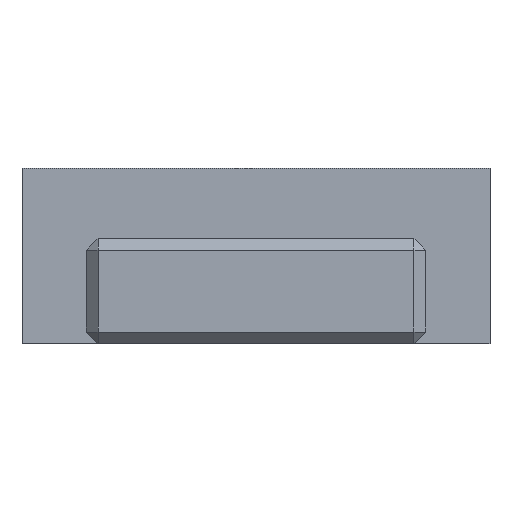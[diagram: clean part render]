
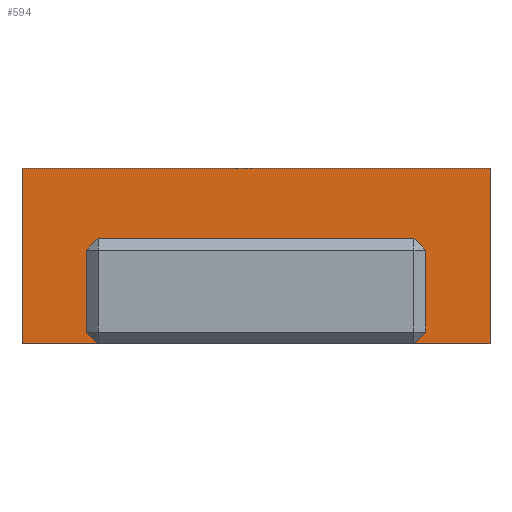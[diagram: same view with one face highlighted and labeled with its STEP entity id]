
A CAD part, front view. The second image highlights one B-rep face of the part: STEP entity #594.
In plain terms, the highlighted planar face has unit normal (0, -1, 0).
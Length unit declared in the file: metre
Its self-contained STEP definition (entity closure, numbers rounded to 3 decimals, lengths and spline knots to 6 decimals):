
#12=ORIENTED_EDGE('',*,*,#180,.T.);
#13=ORIENTED_EDGE('',*,*,#181,.T.);
#14=ORIENTED_EDGE('',*,*,#182,.F.);
#15=ORIENTED_EDGE('',*,*,#183,.T.);
#16=ORIENTED_EDGE('',*,*,#184,.T.);
#17=ORIENTED_EDGE('',*,*,#185,.F.);
#18=ORIENTED_EDGE('',*,*,#186,.F.);
#19=ORIENTED_EDGE('',*,*,#187,.T.);
#20=ORIENTED_EDGE('',*,*,#188,.F.);
#21=ORIENTED_EDGE('',*,*,#189,.T.);
#22=ORIENTED_EDGE('',*,*,#190,.T.);
#23=ORIENTED_EDGE('',*,*,#191,.T.);
#180=EDGE_CURVE('',#264,#265,#312,.T.);
#181=EDGE_CURVE('',#265,#266,#313,.F.);
#182=EDGE_CURVE('',#267,#266,#314,.T.);
#183=EDGE_CURVE('',#267,#268,#315,.T.);
#184=EDGE_CURVE('',#268,#269,#316,.T.);
#185=EDGE_CURVE('',#270,#269,#317,.T.);
#186=EDGE_CURVE('',#271,#270,#318,.T.);
#187=EDGE_CURVE('',#271,#272,#319,.T.);
#188=EDGE_CURVE('',#273,#272,#320,.T.);
#189=EDGE_CURVE('',#273,#274,#321,.T.);
#190=EDGE_CURVE('',#274,#275,#322,.T.);
#191=EDGE_CURVE('',#275,#264,#323,.F.);
#264=VERTEX_POINT('',#848);
#265=VERTEX_POINT('',#849);
#266=VERTEX_POINT('',#851);
#267=VERTEX_POINT('',#853);
#268=VERTEX_POINT('',#855);
#269=VERTEX_POINT('',#857);
#270=VERTEX_POINT('',#859);
#271=VERTEX_POINT('',#861);
#272=VERTEX_POINT('',#863);
#273=VERTEX_POINT('',#865);
#274=VERTEX_POINT('',#867);
#275=VERTEX_POINT('',#869);
#312=LINE('',#847,#396);
#313=LINE('',#850,#397);
#314=LINE('',#852,#398);
#315=LINE('',#854,#399);
#316=LINE('',#856,#400);
#317=LINE('',#858,#401);
#318=LINE('',#860,#402);
#319=LINE('',#862,#403);
#320=LINE('',#864,#404);
#321=LINE('',#866,#405);
#322=LINE('',#868,#406);
#323=LINE('',#870,#407);
#396=VECTOR('',#687,1.);
#397=VECTOR('',#688,1.);
#398=VECTOR('',#689,1.);
#399=VECTOR('',#690,1.);
#400=VECTOR('',#691,1.);
#401=VECTOR('',#692,1.);
#402=VECTOR('',#693,1.);
#403=VECTOR('',#694,1.);
#404=VECTOR('',#695,1.);
#405=VECTOR('',#696,1.);
#406=VECTOR('',#697,1.);
#407=VECTOR('',#698,1.);
#480=EDGE_LOOP('',(#12,#13,#14,#15,#16,#17,#18,#19,#20,#21,#22,#23));
#518=FACE_BOUND('',#480,.T.);
#556=PLANE('',#645);
#594=ADVANCED_FACE('',(#518),#556,.T.);
#645=AXIS2_PLACEMENT_3D('',#846,#685,#686);
#685=DIRECTION('',(0.,-1.,0.));
#686=DIRECTION('',(1.,0.,0.));
#687=DIRECTION('',(0.,0.,-1.));
#688=DIRECTION('',(0.707,0.,0.707));
#689=DIRECTION('',(-1.,0.,0.));
#690=DIRECTION('',(0.,0.,1.));
#691=DIRECTION('',(-1.,0.,0.));
#692=DIRECTION('',(0.,0.,1.));
#693=DIRECTION('',(-1.,0.,0.));
#694=DIRECTION('',(-0.707,0.,0.707));
#695=DIRECTION('',(0.,0.,-1.));
#696=DIRECTION('',(0.707,0.,0.707));
#697=DIRECTION('',(1.,0.,0.));
#698=DIRECTION('',(-0.707,0.,0.707));
#846=CARTESIAN_POINT('',(-0.053509,-0.05,-0.033949));
#847=CARTESIAN_POINT('',(-0.050609,-0.05,-0.036121));
#848=CARTESIAN_POINT('',(-0.050609,-0.05,-0.035421));
#849=CARTESIAN_POINT('',(-0.050609,-0.05,-0.036821));
#850=CARTESIAN_POINT('',(-0.050609,-0.05,-0.036821));
#851=CARTESIAN_POINT('',(-0.050809,-0.05,-0.037021));
#852=CARTESIAN_POINT('',(-0.053509,-0.05,-0.037021));
#853=CARTESIAN_POINT('',(-0.049509,-0.05,-0.037021));
#854=CARTESIAN_POINT('',(-0.049509,-0.05,-0.035521));
#855=CARTESIAN_POINT('',(-0.049509,-0.05,-0.034021));
#856=CARTESIAN_POINT('',(-0.053509,-0.05,-0.034021));
#857=CARTESIAN_POINT('',(-0.057509,-0.05,-0.034021));
#858=CARTESIAN_POINT('',(-0.057509,-0.05,-0.035521));
#859=CARTESIAN_POINT('',(-0.057509,-0.05,-0.037021));
#860=CARTESIAN_POINT('',(-0.053509,-0.05,-0.037021));
#861=CARTESIAN_POINT('',(-0.056209,-0.05,-0.037021));
#862=CARTESIAN_POINT('',(-0.056209,-0.05,-0.037021));
#863=CARTESIAN_POINT('',(-0.056409,-0.05,-0.036821));
#864=CARTESIAN_POINT('',(-0.056409,-0.05,-0.036121));
#865=CARTESIAN_POINT('',(-0.056409,-0.05,-0.035421));
#866=CARTESIAN_POINT('',(-0.056409,-0.05,-0.035421));
#867=CARTESIAN_POINT('',(-0.056209,-0.05,-0.035221));
#868=CARTESIAN_POINT('',(-0.053509,-0.05,-0.035221));
#869=CARTESIAN_POINT('',(-0.050809,-0.05,-0.035221));
#870=CARTESIAN_POINT('',(-0.050809,-0.05,-0.035221));
